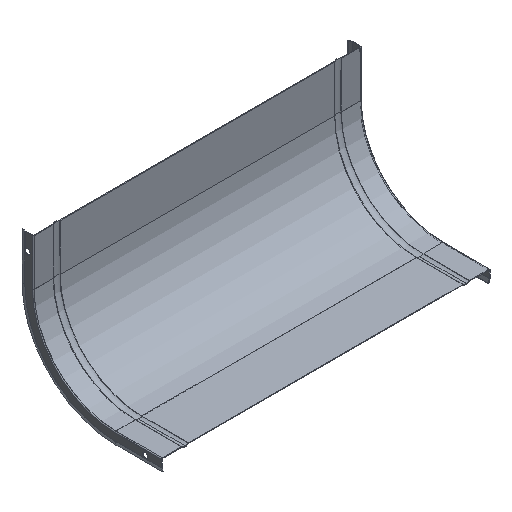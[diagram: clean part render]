
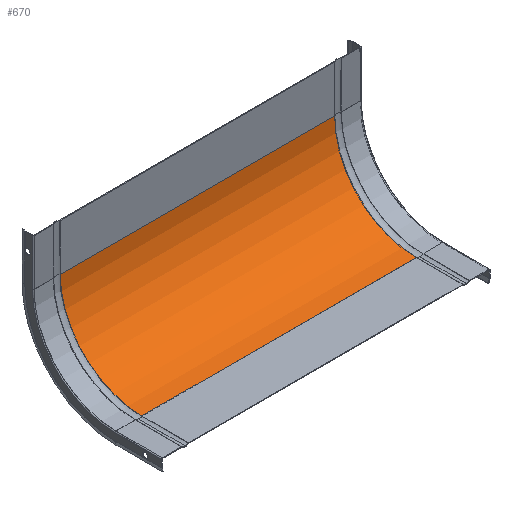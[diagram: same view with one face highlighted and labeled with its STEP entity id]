
A CAD part, isometric view. The second image highlights one B-rep face of the part: STEP entity #670.
In plain terms, the highlighted cylindrical face has radius 100 mm (diameter 200 mm), a partial arc.
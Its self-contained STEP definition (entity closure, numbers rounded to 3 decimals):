
#74 = DIRECTION ( 'NONE',  ( 0., 0., 1. ) ) ;
#271 = CARTESIAN_POINT ( 'NONE',  ( -168., -100., -57. ) ) ;
#302 = CIRCLE ( 'NONE', #1949, 100. ) ;
#386 = EDGE_CURVE ( 'NONE', #2348, #1895, #1052, .T. ) ;
#463 = DIRECTION ( 'NONE',  ( 1., 0., 0. ) ) ;
#629 = AXIS2_PLACEMENT_3D ( 'NONE', #1729, #1536, #1754 ) ;
#655 = EDGE_CURVE ( 'NONE', #2185, #2282, #302, .T. ) ;
#670 = ADVANCED_FACE ( 'NONE', ( #2099 ), #688, .F. ) ;
#688 = CYLINDRICAL_SURFACE ( 'NONE', #629, 100. ) ;
#937 = CARTESIAN_POINT ( 'NONE',  ( -168., -100., -157. ) ) ;
#961 = LINE ( 'NONE', #937, #2273 ) ;
#1014 = CARTESIAN_POINT ( 'NONE',  ( -168., 0., -57. ) ) ;
#1052 = CIRCLE ( 'NONE', #1220, 100. ) ;
#1060 = CARTESIAN_POINT ( 'NONE',  ( -168., 0., -57. ) ) ;
#1152 = CARTESIAN_POINT ( 'NONE',  ( 168., -100., -57. ) ) ;
#1158 = CARTESIAN_POINT ( 'NONE',  ( 168., 0., -57. ) ) ;
#1172 = DIRECTION ( 'NONE',  ( -1., 0., 0. ) ) ;
#1220 = AXIS2_PLACEMENT_3D ( 'NONE', #1152, #1172, #2590 ) ;
#1285 = LINE ( 'NONE', #1060, #1443 ) ;
#1442 = ORIENTED_EDGE ( 'NONE', *, *, #2424, .T. ) ;
#1443 = VECTOR ( 'NONE', #463, 1000. ) ;
#1478 = EDGE_CURVE ( 'NONE', #2185, #2348, #1285, .T. ) ;
#1492 = EDGE_LOOP ( 'NONE', ( #1659, #2452, #1442, #1854 ) ) ;
#1536 = DIRECTION ( 'NONE',  ( -1., 0., 0. ) ) ;
#1546 = DIRECTION ( 'NONE',  ( 1., 0., 0. ) ) ;
#1659 = ORIENTED_EDGE ( 'NONE', *, *, #1478, .F. ) ;
#1729 = CARTESIAN_POINT ( 'NONE',  ( 0., -100., -57. ) ) ;
#1754 = DIRECTION ( 'NONE',  ( 0., 0., 1. ) ) ;
#1854 = ORIENTED_EDGE ( 'NONE', *, *, #386, .F. ) ;
#1885 = DIRECTION ( 'NONE',  ( -1., 0., 0. ) ) ;
#1895 = VERTEX_POINT ( 'NONE', #2484 ) ;
#1949 = AXIS2_PLACEMENT_3D ( 'NONE', #271, #1885, #74 ) ;
#2099 = FACE_OUTER_BOUND ( 'NONE', #1492, .T. ) ;
#2185 = VERTEX_POINT ( 'NONE', #1014 ) ;
#2273 = VECTOR ( 'NONE', #1546, 1000. ) ;
#2282 = VERTEX_POINT ( 'NONE', #2521 ) ;
#2348 = VERTEX_POINT ( 'NONE', #1158 ) ;
#2424 = EDGE_CURVE ( 'NONE', #2282, #1895, #961, .T. ) ;
#2452 = ORIENTED_EDGE ( 'NONE', *, *, #655, .T. ) ;
#2484 = CARTESIAN_POINT ( 'NONE',  ( 168., -100., -157. ) ) ;
#2521 = CARTESIAN_POINT ( 'NONE',  ( -168., -100., -157. ) ) ;
#2590 = DIRECTION ( 'NONE',  ( 0., 0., 1. ) ) ;
